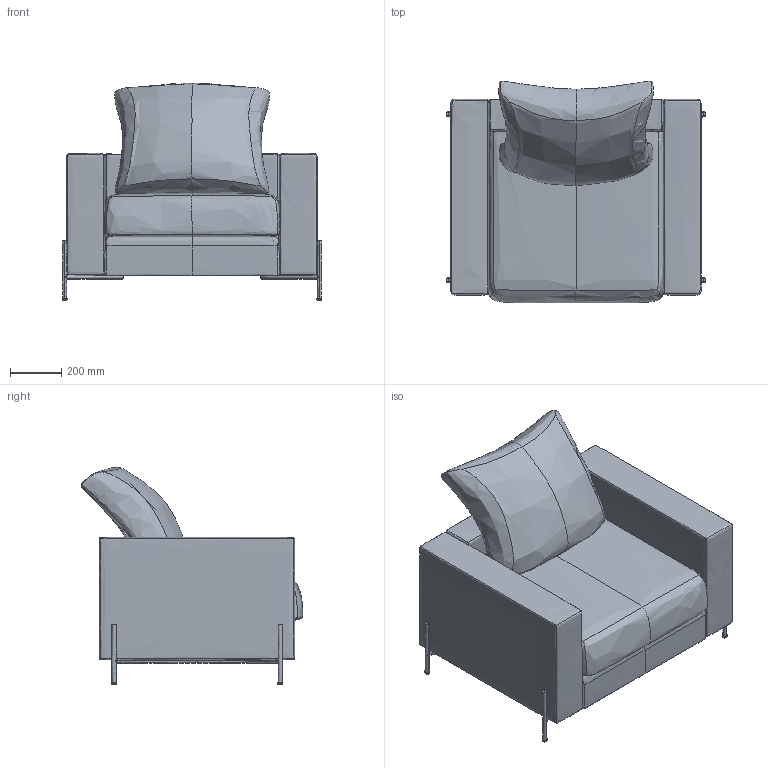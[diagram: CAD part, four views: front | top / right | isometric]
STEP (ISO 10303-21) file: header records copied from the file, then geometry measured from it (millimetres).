
FILE_DESCRIPTION(/* description */ (''),/* implementation_level */ '2;1');
FILE_NAME(/* name */ 'kinoshita_abord_f014-1',/* time_stamp */ '2024-10-01T14:25:55+09:00',/* author */ (''),/* organization */ (''),/* preprocessor_version */ 'ST-DEVELOPER v16.5',/* originating_system */ '',/* authorisation */ '');
FILE_SCHEMA (('AUTOMOTIVE_DESIGN'));
Length unit declared in the file: millimetre
Products named in the file (1): Document
Bounding box: 1014.95 x 864.59 x 849.61 mm (x, y, z)
Volume: 330599755.3 mm3; surface area: 4837368.9 mm2
Topology: 3 solids, 3 shells, 196 faces, 495 edges, 311 vertices
Faces by surface type: bspline 108, plane 88
Entity records: 22649 total; most frequent: CARTESIAN_POINT 19474, ORIENTED_EDGE 990, EDGE_CURVE 495, B_SPLINE_CURVE_WITH_KNOTS 370, VERTEX_POINT 311, EDGE_LOOP 230, ADVANCED_FACE 196, FACE_OUTER_BOUND 196
